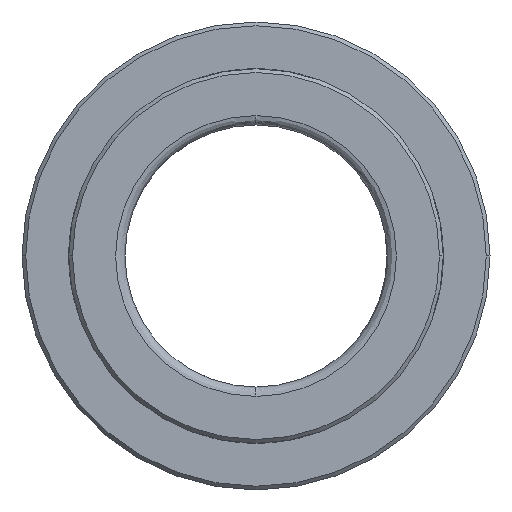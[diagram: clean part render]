
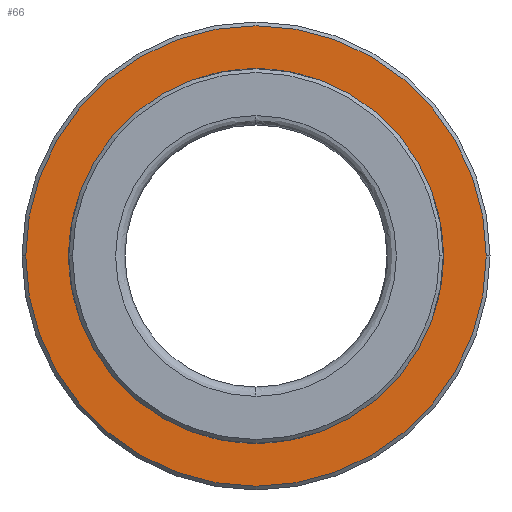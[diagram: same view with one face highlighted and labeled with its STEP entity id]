
A CAD part, left-side view. The second image highlights one B-rep face of the part: STEP entity #66.
In plain terms, the highlighted planar face has unit normal (-1, 0, 0).
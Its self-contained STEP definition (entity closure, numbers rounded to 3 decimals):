
#1 = AXIS2_PLACEMENT_3D ( 'NONE', #167, #205, #1511 ) ;
#35 = DIRECTION ( 'NONE',  ( -1., 0., 0. ) ) ;
#66 = ADVANCED_FACE ( 'NONE', ( #880, #2419 ), #1654, .T. ) ;
#74 = CARTESIAN_POINT ( 'NONE',  ( -101.7, 42.8, -50.5 ) ) ;
#93 = DIRECTION ( 'NONE',  ( -1., 0., 0. ) ) ;
#167 = CARTESIAN_POINT ( 'NONE',  ( -101.7, 30.5, -50.5 ) ) ;
#187 = CARTESIAN_POINT ( 'NONE',  ( -101.7, 30.5, -50.5 ) ) ;
#205 = DIRECTION ( 'NONE',  ( -1., 0., 0. ) ) ;
#225 = CIRCLE ( 'NONE', #1517, 12.3 ) ;
#367 = EDGE_CURVE ( 'NONE', #2331, #1970, #225, .T. ) ;
#397 = DIRECTION ( 'NONE',  ( 0., 1., 0. ) ) ;
#436 = CARTESIAN_POINT ( 'NONE',  ( -101.7, 30.5, -50.5 ) ) ;
#569 = EDGE_CURVE ( 'NONE', #999, #1754, #577, .T. ) ;
#577 = CIRCLE ( 'NONE', #1102, 9.8 ) ;
#617 = EDGE_CURVE ( 'NONE', #1970, #2331, #2396, .T. ) ;
#675 = CARTESIAN_POINT ( 'NONE',  ( -101.7, 30.5, -40.7 ) ) ;
#695 = DIRECTION ( 'NONE',  ( 0., 0., 1. ) ) ;
#822 = CARTESIAN_POINT ( 'NONE',  ( -101.7, 18.2, -50.5 ) ) ;
#862 = DIRECTION ( 'NONE',  ( -1., 0., 0. ) ) ;
#880 = FACE_OUTER_BOUND ( 'NONE', #1492, .T. ) ;
#958 = ORIENTED_EDGE ( 'NONE', *, *, #569, .F. ) ;
#999 = VERTEX_POINT ( 'NONE', #675 ) ;
#1102 = AXIS2_PLACEMENT_3D ( 'NONE', #436, #1946, #1975 ) ;
#1391 = CARTESIAN_POINT ( 'NONE',  ( -101.7, 30.5, -60.3 ) ) ;
#1492 = EDGE_LOOP ( 'NONE', ( #1669, #1587 ) ) ;
#1511 = DIRECTION ( 'NONE',  ( 0., 1., 0. ) ) ;
#1517 = AXIS2_PLACEMENT_3D ( 'NONE', #2399, #862, #2222 ) ;
#1587 = ORIENTED_EDGE ( 'NONE', *, *, #617, .T. ) ;
#1654 = PLANE ( 'NONE',  #2168 ) ;
#1669 = ORIENTED_EDGE ( 'NONE', *, *, #367, .T. ) ;
#1754 = VERTEX_POINT ( 'NONE', #1391 ) ;
#1898 = EDGE_CURVE ( 'NONE', #1754, #999, #2195, .T. ) ;
#1942 = EDGE_LOOP ( 'NONE', ( #2114, #958 ) ) ;
#1946 = DIRECTION ( 'NONE',  ( -1., 0., 0. ) ) ;
#1958 = AXIS2_PLACEMENT_3D ( 'NONE', #187, #35, #397 ) ;
#1970 = VERTEX_POINT ( 'NONE', #822 ) ;
#1975 = DIRECTION ( 'NONE',  ( 0., 1., 0. ) ) ;
#2114 = ORIENTED_EDGE ( 'NONE', *, *, #1898, .F. ) ;
#2168 = AXIS2_PLACEMENT_3D ( 'NONE', #2433, #93, #695 ) ;
#2195 = CIRCLE ( 'NONE', #1, 9.8 ) ;
#2222 = DIRECTION ( 'NONE',  ( 0., 1., 0. ) ) ;
#2331 = VERTEX_POINT ( 'NONE', #74 ) ;
#2396 = CIRCLE ( 'NONE', #1958, 12.3 ) ;
#2399 = CARTESIAN_POINT ( 'NONE',  ( -101.7, 30.5, -50.5 ) ) ;
#2419 = FACE_BOUND ( 'NONE', #1942, .T. ) ;
#2433 = CARTESIAN_POINT ( 'NONE',  ( -101.7, 41.55, -50.5 ) ) ;
